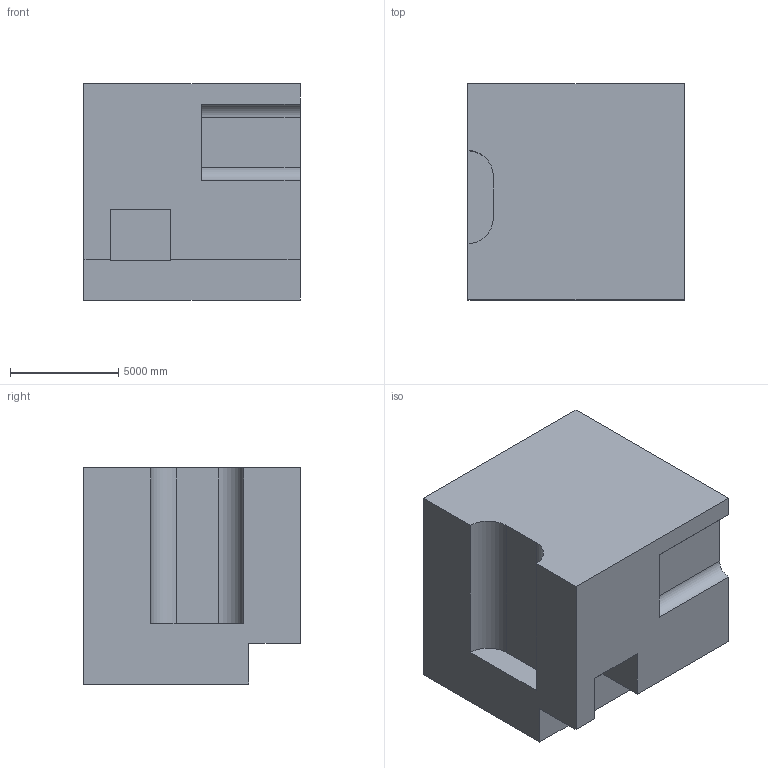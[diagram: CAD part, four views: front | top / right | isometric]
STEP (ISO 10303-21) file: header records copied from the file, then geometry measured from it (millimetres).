
FILE_DESCRIPTION (( 'STEP AP203' ), '1' );
FILE_NAME ('286.STEP', '2022-09-07T12:37:42', ( 'user' ), ( '' ), 'SwSTEP 2.0', 'SolidWorks 2021', '' );
FILE_SCHEMA (( 'CONFIG_CONTROL_DESIGN' ));
Length unit declared in the file: centimetre
Products named in the file (1): 286
Bounding box: 10000 x 10000 x 10000 mm (x, y, z)
Volume: 877917885885.6 mm3; surface area: 635158445.5 mm2
Topology: 1 solids, 1 shells, 26 faces, 72 edges, 48 vertices
Faces by surface type: plane 20, cylinder 6
Entity records: 905 total; most frequent: CARTESIAN_POINT 147, ORIENTED_EDGE 144, DIRECTION 138, EDGE_CURVE 72, LINE 60, VECTOR 60, VERTEX_POINT 48, AXIS2_PLACEMENT_3D 39
